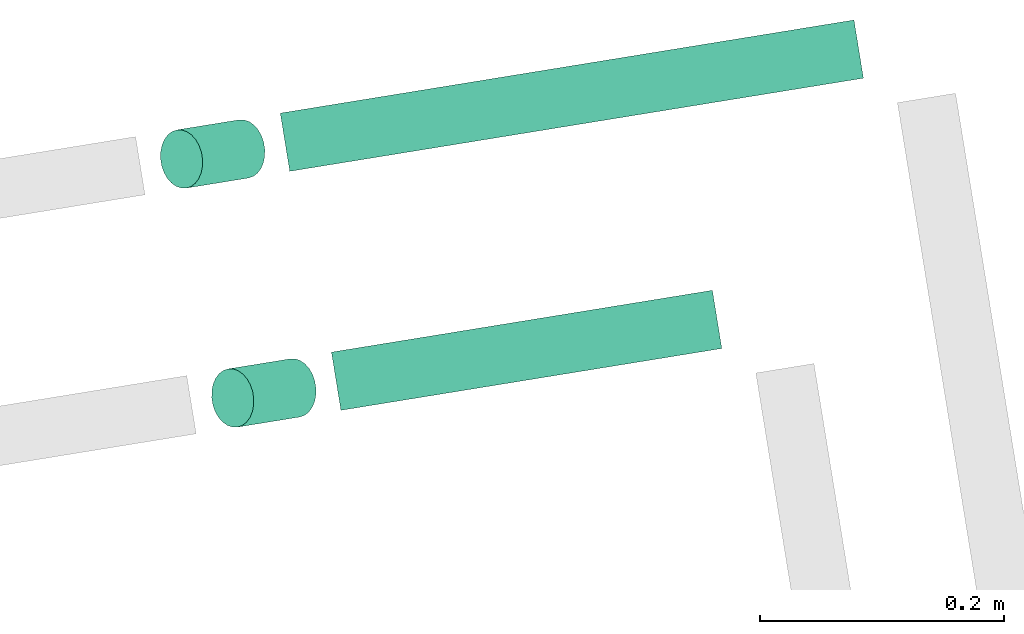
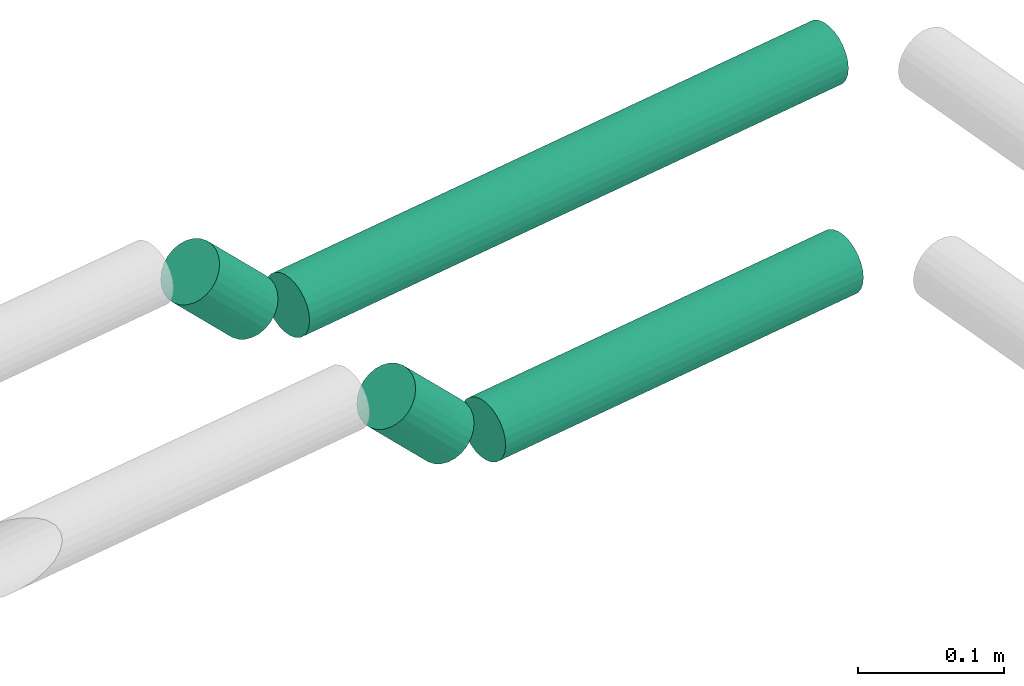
# One storey, part 5 of 10: 4 flow segments.
"""IFC2X3 building model written with IfcOpenShell, lengths in millimetres."""

from ifc_helpers import new_model, entity, si_unit, converted_unit, derived_unit, direction, frame, frame_2d, origin, origin_with_axes, origin_2d_with_axis, place, context, subcontext, project, spatial, circle, extrude, type_object, element, save


model = new_model("IFC2X3")

# Units and contexts
plan_context = context("Plan", 3, precision=1e-05, world=origin_with_axes())
model_context = context("Model", 3, precision=0.01, world=origin(), true_north=direction((6.12323399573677e-17, 1.0)))
body_context = subcontext(model_context, "Body", "Model", "MODEL_VIEW")
ifc_project = project(units=[converted_unit("PLANEANGLEUNIT", "DEGREE", entity("IfcPositiveLengthMeasure", 0.0174532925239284), si_unit("PLANEANGLEUNIT", "RADIAN"), dimensions=[0, 0, 0, 0, 0, 0, 0]), si_unit("AREAUNIT", "SQUARE_METRE"), si_unit("LENGTHUNIT", "METRE", prefix="MILLI"), si_unit("MASSUNIT", "GRAM", prefix="KILO"), si_unit("POWERUNIT", "WATT"), si_unit("PRESSUREUNIT", "PASCAL", prefix="KILO"), si_unit("FORCEUNIT", "NEWTON", prefix="KILO"), si_unit("ELECTRICVOLTAGEUNIT", "VOLT"), si_unit("ELECTRICCURRENTUNIT", "AMPERE"), si_unit("THERMODYNAMICTEMPERATUREUNIT", "DEGREE_CELSIUS"), si_unit("TIMEUNIT", "SECOND"), si_unit("VOLUMEUNIT", "CUBIC_METRE"), derived_unit("LINEARVELOCITYUNIT", [(si_unit("LENGTHUNIT", "METRE"), 1), (si_unit("TIMEUNIT", "SECOND"), -1)]), derived_unit("VOLUMETRICFLOWRATEUNIT", [(si_unit("VOLUMEUNIT", "CUBIC_METRE"), 1), (si_unit("TIMEUNIT", "SECOND"), -1)]), derived_unit("THERMALTRANSMITTANCEUNIT", [(si_unit("POWERUNIT", "WATT"), 1), (si_unit("THERMODYNAMICTEMPERATUREUNIT", "KELVIN"), -1), (si_unit("AREAUNIT", "SQUARE_METRE"), -1)]), derived_unit("SOUNDPRESSUREUNIT", [(si_unit("PRESSUREUNIT", "PASCAL"), 1)])], contexts=[model_context, plan_context])

# Site, building, storey
site_placement = place(None, frame((-0.00071070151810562, 0.00438415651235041, 0.0), z_axis=(0.0, 0.0, 1.0), x_axis=(-0.160236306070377, 0.987078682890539, 0.0)))
site = spatial("IfcSite", under=ifc_project, at=site_placement, Name="Default", CompositionType="ELEMENT")
building_placement = place(site_placement, origin_with_axes())
building = spatial("IfcBuilding", under=site, at=building_placement, CompositionType="ELEMENT")
storey_placement = place(building_placement, frame((0.0, 0.0, 58999.9999999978), z_axis=(0.0, 0.0, 1.0), x_axis=(1.0, 0.0, 0.0)))
storey = spatial("IfcBuildingStorey", under=building, at=storey_placement, Name="Nivå F", CompositionType="ELEMENT", Elevation=58999.9999999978)

# Flow segments
pipe_segment_type = type_object("IfcPipeSegmentType", Name="Pipe Types:Stålrør syrefast AISI 316", PredefinedType="NOTDEFINED")
flow_segment_1_placement = place(storey_placement, origin_with_axes())
element("IfcFlowSegment", 1, at=flow_segment_1_placement, inside=storey, type_object=pipe_segment_type, Name="Pipe Types:Stålrør syrefast AISI 316", ObjectType="Pipe Types:Stålrør syrefast AISI 316", context=body_context, shape_type="SweptSolid", body=[
    extrude(circle(Radius=24.1499996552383, at=origin_2d_with_axis()), frame((785342.119680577, -502876.054093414, 2820.0), z_axis=(0.0, 1.0, 0.0), x_axis=(1.0, 0.0, 0.0)), (0.0, 0.0, 1.0), 316.142065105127),
])
flow_segment_2_placement = place(storey_placement, origin_with_axes())
element("IfcFlowSegment", 2, at=flow_segment_2_placement, inside=storey, type_object=pipe_segment_type, Name="Pipe Types:Stålrør syrefast AISI 316", ObjectType="Pipe Types:Stålrør syrefast AISI 316", context=body_context, shape_type="SweptSolid", body=[
    extrude(circle(Radius=24.1499996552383, at=origin_2d_with_axis()), frame((785542.119680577, -503026.054093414, 2820.0), z_axis=(0.0, 1.0, 0.0), x_axis=(1.0, 0.0, 0.0)), (0.0, 0.0, 1.0), 476.14206510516),
])
flow_segment_3_placement = place(storey_placement, origin_with_axes())
element("IfcFlowSegment", 3, at=flow_segment_3_placement, inside=storey, type_object=pipe_segment_type, Name="Pipe Types:Stålrør syrefast AISI 316", ObjectType="Pipe Types:Stålrør syrefast AISI 316", context=body_context, shape_type="SweptSolid", body=[
    extrude(circle(Radius=24.1499996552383, at=frame_2d((0.0, -4.28793506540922e-11), x_axis=(1.0, 0.0))), frame((785342.119680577, -502525.6880601, 2834.17603179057), z_axis=(0.0, 0.707106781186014, 0.707106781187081), x_axis=(-1.0, 0.0, 0.0)), (0.0, 0.0, 1.0), 73.0412121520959),
])
flow_segment_4_placement = place(storey_placement, origin_with_axes())
element("IfcFlowSegment", 4, at=flow_segment_4_placement, inside=storey, type_object=pipe_segment_type, Name="Pipe Types:Stålrør syrefast AISI 316", ObjectType="Pipe Types:Stålrør syrefast AISI 316", context=body_context, shape_type="SweptSolid", body=[
    extrude(circle(Radius=24.1499996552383, at=frame_2d((0.0, 5.51305936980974e-11), x_axis=(1.0, 0.0))), frame((785542.119680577, -502515.6880601, 2834.17603179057), z_axis=(0.0, 0.707106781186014, 0.707106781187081), x_axis=(-1.0, 0.0, 0.0)), (0.0, 0.0, 1.0), 73.0412121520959),
])

save(model, "model.ifc")
